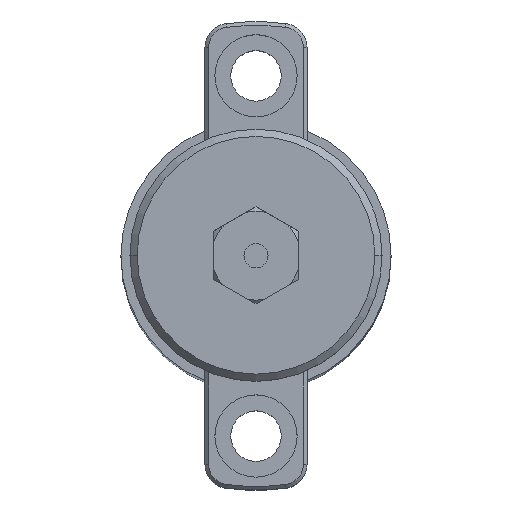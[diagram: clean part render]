
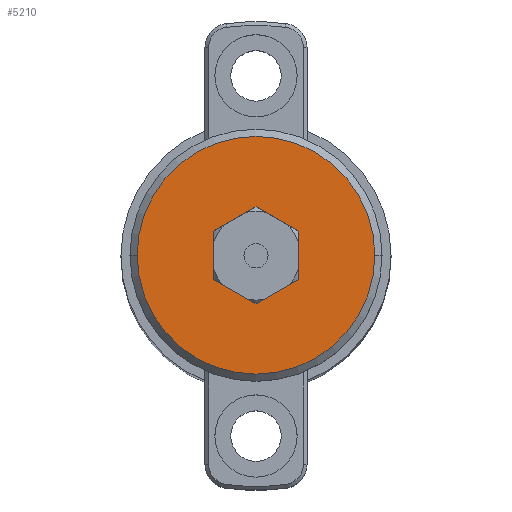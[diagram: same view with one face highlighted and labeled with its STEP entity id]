
A CAD part, top view. The second image highlights one B-rep face of the part: STEP entity #5210.
In plain terms, the highlighted planar face has unit normal (0, 0, 1).
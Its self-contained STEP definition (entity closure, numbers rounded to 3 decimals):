
#142 = ORIENTED_EDGE ( 'NONE', *, *, #2955, .F. ) ;
#177 = EDGE_CURVE ( 'NONE', #13125, #2377, #11606, .T. ) ;
#832 = ORIENTED_EDGE ( 'NONE', *, *, #177, .F. ) ;
#1392 = CARTESIAN_POINT ( 'NONE',  ( 0., 8.083, 0. ) ) ;
#1780 = CARTESIAN_POINT ( 'NONE',  ( 7., 4.041, 0. ) ) ;
#2200 = LINE ( 'NONE', #4450, #5109 ) ;
#2377 = VERTEX_POINT ( 'NONE', #4050 ) ;
#2840 = CARTESIAN_POINT ( 'NONE',  ( -7., -4.041, 0. ) ) ;
#2905 = DIRECTION ( 'NONE',  ( 0., 1., 0. ) ) ;
#2955 = EDGE_CURVE ( 'NONE', #11447, #4142, #3519, .T. ) ;
#3105 = EDGE_CURVE ( 'NONE', #4643, #4670, #14236, .T. ) ;
#3126 = VECTOR ( 'NONE', #9345, 1000. ) ;
#3127 = CARTESIAN_POINT ( 'NONE',  ( -7., -4.041, 0. ) ) ;
#3355 = CARTESIAN_POINT ( 'NONE',  ( 0., -8.083, 0. ) ) ;
#3519 = LINE ( 'NONE', #5656, #3126 ) ;
#3781 = DIRECTION ( 'NONE',  ( 0., 0., 1. ) ) ;
#4050 = CARTESIAN_POINT ( 'NONE',  ( -7., 4.041, 0. ) ) ;
#4094 = CARTESIAN_POINT ( 'NONE',  ( -19.8, 0., 0. ) ) ;
#4127 = VECTOR ( 'NONE', #2905, 1000. ) ;
#4142 = VERTEX_POINT ( 'NONE', #10779 ) ;
#4450 = CARTESIAN_POINT ( 'NONE',  ( 7., 4.041, 0. ) ) ;
#4526 = PLANE ( 'NONE',  #5275 ) ;
#4643 = VERTEX_POINT ( 'NONE', #5303 ) ;
#4670 = VERTEX_POINT ( 'NONE', #4094 ) ;
#5109 = VECTOR ( 'NONE', #6908, 1000. ) ;
#5210 = ADVANCED_FACE ( 'NONE', ( #7404, #13521 ), #4526, .F. ) ;
#5275 = AXIS2_PLACEMENT_3D ( 'NONE', #8163, #13054, #5760 ) ;
#5303 = CARTESIAN_POINT ( 'NONE',  ( 19.8, 0., 0. ) ) ;
#5656 = CARTESIAN_POINT ( 'NONE',  ( 0., -8.083, 0. ) ) ;
#5760 = DIRECTION ( 'NONE',  ( -1., 0., 0. ) ) ;
#5809 = VECTOR ( 'NONE', #11407, 1000. ) ;
#6145 = EDGE_CURVE ( 'NONE', #12134, #13125, #2200, .T. ) ;
#6201 = LINE ( 'NONE', #2840, #5809 ) ;
#6810 = ORIENTED_EDGE ( 'NONE', *, *, #8070, .F. ) ;
#6908 = DIRECTION ( 'NONE',  ( -0.866, 0.5, 0. ) ) ;
#7132 = CARTESIAN_POINT ( 'NONE',  ( 0., 0., 0. ) ) ;
#7404 = FACE_BOUND ( 'NONE', #12517, .T. ) ;
#7514 = AXIS2_PLACEMENT_3D ( 'NONE', #11108, #3781, #12328 ) ;
#8070 = EDGE_CURVE ( 'NONE', #13938, #11447, #6201, .T. ) ;
#8128 = LINE ( 'NONE', #11483, #4127 ) ;
#8163 = CARTESIAN_POINT ( 'NONE',  ( 0., 19.8, 0. ) ) ;
#8391 = DIRECTION ( 'NONE',  ( 1., 0., 0. ) ) ;
#9161 = LINE ( 'NONE', #10980, #15289 ) ;
#9345 = DIRECTION ( 'NONE',  ( 0.866, 0.5, 0. ) ) ;
#9609 = ORIENTED_EDGE ( 'NONE', *, *, #14878, .F. ) ;
#10111 = EDGE_CURVE ( 'NONE', #4670, #4643, #10658, .T. ) ;
#10402 = DIRECTION ( 'NONE',  ( 0., -1., 0. ) ) ;
#10658 = CIRCLE ( 'NONE', #7514, 19.8 ) ;
#10779 = CARTESIAN_POINT ( 'NONE',  ( 7., -4.041, 0. ) ) ;
#10980 = CARTESIAN_POINT ( 'NONE',  ( -7., 4.041, 0. ) ) ;
#11108 = CARTESIAN_POINT ( 'NONE',  ( 0., 0., 0. ) ) ;
#11407 = DIRECTION ( 'NONE',  ( 0.866, -0.5, 0. ) ) ;
#11447 = VERTEX_POINT ( 'NONE', #3355 ) ;
#11483 = CARTESIAN_POINT ( 'NONE',  ( 7., -4.041, 0. ) ) ;
#11606 = LINE ( 'NONE', #1392, #14482 ) ;
#11775 = ORIENTED_EDGE ( 'NONE', *, *, #6145, .F. ) ;
#12077 = EDGE_CURVE ( 'NONE', #4142, #12134, #8128, .T. ) ;
#12134 = VERTEX_POINT ( 'NONE', #1780 ) ;
#12328 = DIRECTION ( 'NONE',  ( 1., 0., 0. ) ) ;
#12517 = EDGE_LOOP ( 'NONE', ( #832, #11775, #13365, #142, #6810, #9609 ) ) ;
#12964 = EDGE_LOOP ( 'NONE', ( #15847, #14785 ) ) ;
#13054 = DIRECTION ( 'NONE',  ( 0., 0., -1. ) ) ;
#13082 = CARTESIAN_POINT ( 'NONE',  ( 0., 8.083, 0. ) ) ;
#13125 = VERTEX_POINT ( 'NONE', #13082 ) ;
#13365 = ORIENTED_EDGE ( 'NONE', *, *, #12077, .F. ) ;
#13521 = FACE_OUTER_BOUND ( 'NONE', #12964, .T. ) ;
#13641 = DIRECTION ( 'NONE',  ( -0.866, -0.5, 0. ) ) ;
#13938 = VERTEX_POINT ( 'NONE', #3127 ) ;
#13954 = AXIS2_PLACEMENT_3D ( 'NONE', #7132, #15703, #8391 ) ;
#14236 = CIRCLE ( 'NONE', #13954, 19.8 ) ;
#14482 = VECTOR ( 'NONE', #13641, 1000. ) ;
#14785 = ORIENTED_EDGE ( 'NONE', *, *, #3105, .T. ) ;
#14878 = EDGE_CURVE ( 'NONE', #2377, #13938, #9161, .T. ) ;
#15289 = VECTOR ( 'NONE', #10402, 1000. ) ;
#15703 = DIRECTION ( 'NONE',  ( 0., 0., 1. ) ) ;
#15847 = ORIENTED_EDGE ( 'NONE', *, *, #10111, .T. ) ;
